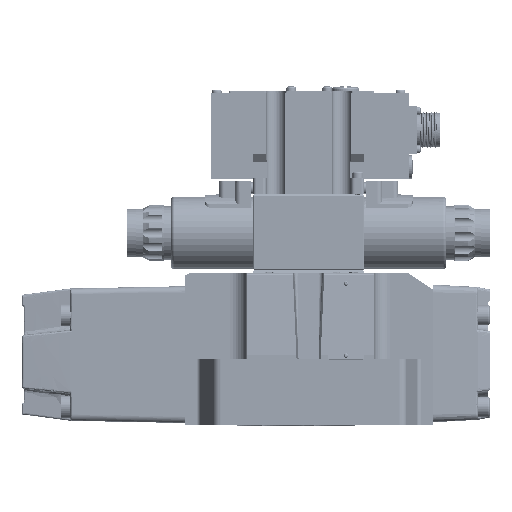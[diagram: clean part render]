
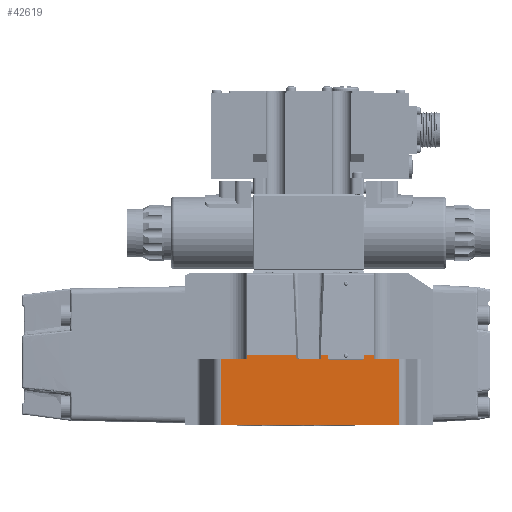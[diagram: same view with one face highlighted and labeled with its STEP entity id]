
A CAD part, front view. The second image highlights one B-rep face of the part: STEP entity #42619.
In plain terms, the highlighted planar face has unit normal (0, -1, 0).
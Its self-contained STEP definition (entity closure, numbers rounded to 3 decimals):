
#2766=FACE_OUTER_BOUND('',#8235,.T.);
#5131=PLANE('',#51716);
#6295=CIRCLE('',#51715,0.9);
#8235=EDGE_LOOP('',(#13669,#13670,#13671,#13672,#13673,#13674,#13675,#13676,
#13677,#13678,#13679,#13680,#13681,#13682));
#13669=ORIENTED_EDGE('',*,*,#27036,.F.);
#13670=ORIENTED_EDGE('',*,*,#26755,.F.);
#13671=ORIENTED_EDGE('',*,*,#27037,.T.);
#13672=ORIENTED_EDGE('',*,*,#26768,.F.);
#13673=ORIENTED_EDGE('',*,*,#27038,.T.);
#13674=ORIENTED_EDGE('',*,*,#27039,.F.);
#13675=ORIENTED_EDGE('',*,*,#27040,.F.);
#13676=ORIENTED_EDGE('',*,*,#27041,.F.);
#13677=ORIENTED_EDGE('',*,*,#27042,.F.);
#13678=ORIENTED_EDGE('',*,*,#26975,.F.);
#13679=ORIENTED_EDGE('',*,*,#27043,.T.);
#13680=ORIENTED_EDGE('',*,*,#27044,.T.);
#13681=ORIENTED_EDGE('',*,*,#27045,.F.);
#13682=ORIENTED_EDGE('',*,*,#27046,.F.);
#26755=EDGE_CURVE('',#47155,#47156,#33429,.T.);
#26768=EDGE_CURVE('',#47168,#47169,#33433,.T.);
#26975=EDGE_CURVE('',#47350,#47351,#33493,.T.);
#27036=EDGE_CURVE('',#47156,#47394,#6295,.T.);
#27037=EDGE_CURVE('',#47155,#47169,#33542,.T.);
#27038=EDGE_CURVE('',#47168,#47395,#33543,.T.);
#27039=EDGE_CURVE('',#47396,#47395,#33544,.T.);
#27040=EDGE_CURVE('',#47397,#47396,#33545,.T.);
#27041=EDGE_CURVE('',#47398,#47397,#33546,.T.);
#27042=EDGE_CURVE('',#47351,#47398,#33547,.T.);
#27043=EDGE_CURVE('',#47350,#47399,#33548,.T.);
#27044=EDGE_CURVE('',#47399,#47400,#33549,.T.);
#27045=EDGE_CURVE('',#47401,#47400,#33550,.T.);
#27046=EDGE_CURVE('',#47394,#47401,#33551,.T.);
#33429=LINE('',#69278,#36099);
#33433=LINE('',#69312,#36103);
#33493=LINE('',#70262,#36163);
#33542=LINE('',#70660,#36212);
#33543=LINE('',#70661,#36213);
#33544=LINE('',#70663,#36214);
#33545=LINE('',#70665,#36215);
#33546=LINE('',#70667,#36216);
#33547=LINE('',#70669,#36217);
#33548=LINE('',#70670,#36218);
#33549=LINE('',#70672,#36219);
#33550=LINE('',#70674,#36220);
#33551=LINE('',#70676,#36221);
#36099=VECTOR('',#56354,1.);
#36103=VECTOR('',#56382,1.);
#36163=VECTOR('',#56662,1.);
#36212=VECTOR('',#56753,1.);
#36213=VECTOR('',#56754,1.);
#36214=VECTOR('',#56755,1.);
#36215=VECTOR('',#56756,1.);
#36216=VECTOR('',#56757,1.);
#36217=VECTOR('',#56758,1.);
#36218=VECTOR('',#56759,1.);
#36219=VECTOR('',#56760,1.);
#36220=VECTOR('',#56761,1.);
#36221=VECTOR('',#56762,1.);
#42619=ADVANCED_FACE('',(#2766),#5131,.T.);
#47155=VERTEX_POINT('',#69279);
#47156=VERTEX_POINT('',#69280);
#47168=VERTEX_POINT('',#69311);
#47169=VERTEX_POINT('',#69313);
#47350=VERTEX_POINT('',#70261);
#47351=VERTEX_POINT('',#70263);
#47394=VERTEX_POINT('',#70659);
#47395=VERTEX_POINT('',#70662);
#47396=VERTEX_POINT('',#70664);
#47397=VERTEX_POINT('',#70666);
#47398=VERTEX_POINT('',#70668);
#47399=VERTEX_POINT('',#70671);
#47400=VERTEX_POINT('',#70673);
#47401=VERTEX_POINT('',#70675);
#51715=AXIS2_PLACEMENT_3D('',#70658,#56751,#56752);
#51716=AXIS2_PLACEMENT_3D('',#70677,#56763,#56764);
#56354=DIRECTION('',(1.,0.,0.));
#56382=DIRECTION('',(1.,0.,0.));
#56662=DIRECTION('',(-1.,0.,0.));
#56751=DIRECTION('',(0.,-1.,0.));
#56752=DIRECTION('',(0.,0.,-1.));
#56753=DIRECTION('',(-0.053,0.,-0.999));
#56754=DIRECTION('',(-0.053,0.,0.999));
#56755=DIRECTION('',(1.,0.,0.));
#56756=DIRECTION('',(0.,0.,1.));
#56757=DIRECTION('',(1.,0.,0.));
#56758=DIRECTION('',(0.,0.,1.));
#56759=DIRECTION('',(0.,0.,1.));
#56760=DIRECTION('',(-1.,0.,0.));
#56761=DIRECTION('',(0.,0.,-1.));
#56762=DIRECTION('',(1.,0.,0.));
#56763=DIRECTION('',(0.,-1.,0.));
#56764=DIRECTION('',(0.,0.,-1.));
#69278=CARTESIAN_POINT('',(392.63,299.484,-285.6));
#69279=CARTESIAN_POINT('',(490.205,299.484,-285.6));
#69280=CARTESIAN_POINT('',(505.174,299.484,-285.6));
#69311=CARTESIAN_POINT('',(475.181,299.484,-288.));
#69312=CARTESIAN_POINT('',(428.227,299.484,-288.));
#69313=CARTESIAN_POINT('',(490.079,299.484,-288.));
#70261=CARTESIAN_POINT('',(538.748,299.484,-329.));
#70262=CARTESIAN_POINT('',(428.227,299.484,-329.));
#70263=CARTESIAN_POINT('',(428.227,299.484,-329.));
#70658=CARTESIAN_POINT('',(505.942,299.484,-286.069));
#70659=CARTESIAN_POINT('',(506.71,299.484,-285.6));
#70660=CARTESIAN_POINT('',(487.547,299.484,-336.121));
#70661=CARTESIAN_POINT('',(477.413,299.484,-330.412));
#70662=CARTESIAN_POINT('',(475.055,299.484,-285.6));
#70663=CARTESIAN_POINT('',(392.63,299.484,-285.6));
#70664=CARTESIAN_POINT('',(444.13,299.484,-285.6));
#70665=CARTESIAN_POINT('',(444.13,299.484,-333.));
#70666=CARTESIAN_POINT('',(444.13,299.484,-288.));
#70667=CARTESIAN_POINT('',(428.227,299.484,-288.));
#70668=CARTESIAN_POINT('',(428.227,299.484,-288.));
#70669=CARTESIAN_POINT('',(428.227,299.484,-333.));
#70670=CARTESIAN_POINT('',(538.748,299.484,-333.));
#70671=CARTESIAN_POINT('',(538.748,299.484,-288.));
#70672=CARTESIAN_POINT('',(538.748,299.484,-288.));
#70673=CARTESIAN_POINT('',(523.23,299.484,-288.));
#70674=CARTESIAN_POINT('',(523.23,299.484,-288.));
#70675=CARTESIAN_POINT('',(523.23,299.484,-285.6));
#70676=CARTESIAN_POINT('',(392.63,299.484,-285.6));
#70677=CARTESIAN_POINT('',(428.227,299.484,-333.));
